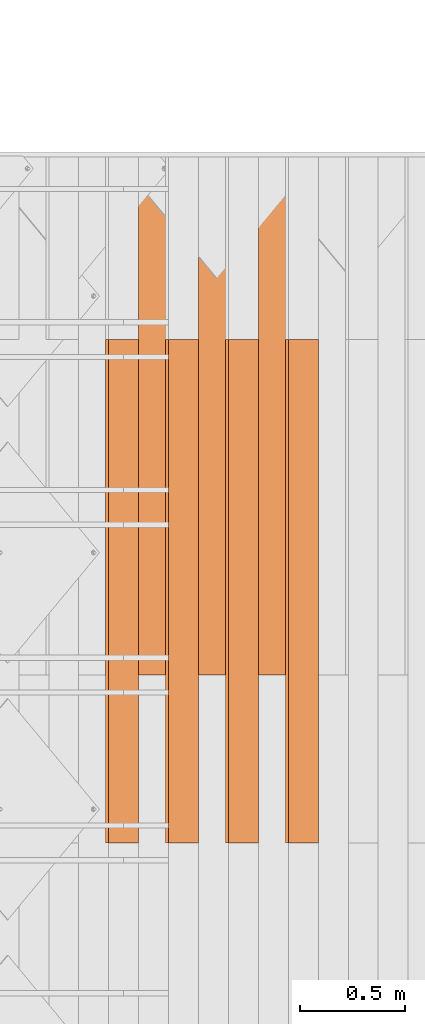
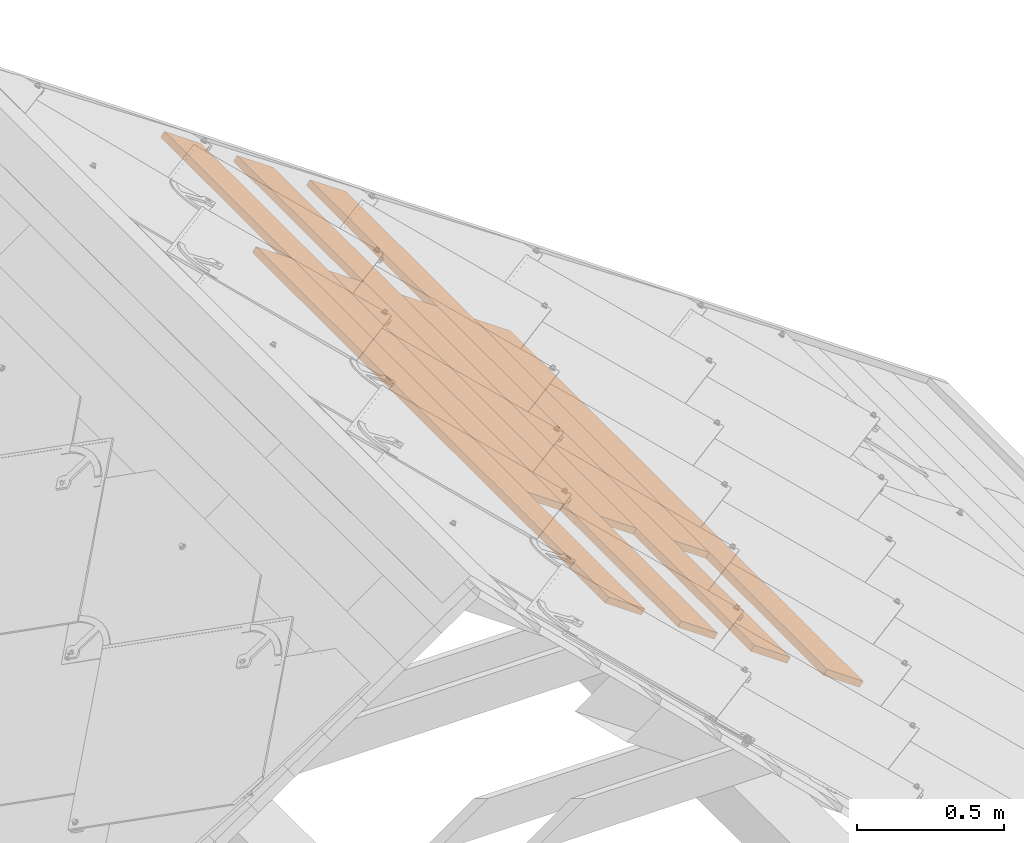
# One storey, part 73 of 151: 7 proxies, 1 element without a shape of its own.
"""IFC2X3 building model written with IfcOpenShell, lengths in millimetres."""

import ifcopenshell
import ifcopenshell.guid

model = None  # the IFC model being written
_history = None  # IfcOwnerHistory: only IFC2X3 demands one
_inside = {}  # id of a spatial element -> (the spatial element, [elements in it])
_under = {}  # id of a project, library or spatial element -> (it, [spatial elements below it])
_declared = {}  # id of a project -> (the project, [libraries it declares])
_typed = {}  # id of a type object -> (the type object, [elements of that type])
_made_of = {}  # id of a material, layer set ... -> (it, [elements and type objects made of it])


def new_model(schema):
    """Start an empty IFC model of exactly this schema.

    Asked for "IFC4X3", IfcOpenShell would pick the latest addendum, in which some entities
    have other attributes; the version numbers below select the first issue.
    IFC2X3 requires an IfcOwnerHistory on every rooted entity: one is made here for all.
    """
    global model, _history
    if schema == "IFC4X3":
        model = ifcopenshell.file(schema_version=(4, 3, 0, 0))
    else:
        model = ifcopenshell.file(schema=schema)
    _inside.clear()
    _under.clear()
    _declared.clear()
    _typed.clear()
    _made_of.clear()
    _history = None
    if model.schema == "IFC2X3":
        org = make("IfcOrganization", Name="unknown")
        user = make(
            "IfcPersonAndOrganization",
            ThePerson=make("IfcPerson", FamilyName="unknown"),
            TheOrganization=org,
        )
        app = make(
            "IfcApplication",
            ApplicationDeveloper=org,
            Version="unknown",
            ApplicationFullName="unknown",
            ApplicationIdentifier="unknown",
        )
        _history = make(
            "IfcOwnerHistory",
            OwningUser=user,
            OwningApplication=app,
            ChangeAction="ADDED",
            CreationDate=0,
        )
    return model


def make(cls, **values):
    """One entity of the class cls with the attributes given. An attribute that is None is left unset."""
    return model.create_entity(
        cls, **{name: value for name, value in values.items() if value is not None}
    )


def entity(cls, *values):
    """Any entity or typed value of the class cls, its attributes in the order of the schema. None: left unset."""
    e = model.create_entity(cls)
    for i, value in enumerate(values):
        if value is not None:
            e[i] = value
    return e


def rooted(cls, **values):
    """An entity with a GlobalId (a new one), such as an element, a storey or a relation."""
    return make(cls, GlobalId=ifcopenshell.guid.new(), OwnerHistory=_history, **values)


def si_unit(unit_type, name, prefix=None):
    """IfcSIUnit, for example si_unit("LENGTHUNIT", "METRE", prefix="MILLI")."""
    return make("IfcSIUnit", UnitType=unit_type, Prefix=prefix, Name=name)


def converted_unit(unit_type, name, factor, base, dimensions=None, offset=None):
    """IfcConversionBasedUnit, such as the inch: factor (a typed value) times the base unit."""
    return make(
        "IfcConversionBasedUnit"
        if offset is None
        else "IfcConversionBasedUnitWithOffset",
        ConversionOffset=offset,
        Dimensions=None
        if dimensions is None
        else entity("IfcDimensionalExponents", *dimensions),
        UnitType=unit_type,
        Name=name,
        ConversionFactor=make(
            "IfcMeasureWithUnit", ValueComponent=factor, UnitComponent=base
        ),
    )


def derived_unit(unit_type, elements):
    """IfcDerivedUnit: a product of units, each with its exponent."""
    return make(
        "IfcDerivedUnit",
        Elements=[
            make("IfcDerivedUnitElement", Unit=unit, Exponent=power)
            for unit, power in elements
        ],
        UnitType=unit_type,
    )


def assignment(units):
    """IfcUnitAssignment: the units of a project."""
    return None if units is None else make("IfcUnitAssignment", Units=units)


def point(xyz):
    """IfcCartesianPoint."""
    return None if xyz is None else make("IfcCartesianPoint", Coordinates=xyz)


def direction(xyz):
    """IfcDirection."""
    return None if xyz is None else make("IfcDirection", DirectionRatios=xyz)


def frame(location, z_axis=None, x_axis=None):
    """IfcAxis2Placement3D, a coordinate frame: its origin and axes. An axis left out is left unset."""
    return make(
        "IfcAxis2Placement3D",
        Location=point(location),
        Axis=direction(z_axis),
        RefDirection=direction(x_axis),
    )


def frame_2d(location, x_axis=None):
    """IfcAxis2Placement2D, a coordinate frame in the plane: its origin and x axis."""
    return make(
        "IfcAxis2Placement2D", Location=point(location), RefDirection=direction(x_axis)
    )


def origin():
    """The frame at (0, 0, 0) with its axes left unset."""
    return frame((0.0, 0.0, 0.0))


def place(relative_to, where):
    """IfcLocalPlacement: puts the frame where relative to a parent placement (None: the world)."""
    return make(
        "IfcLocalPlacement", PlacementRelTo=relative_to, RelativePlacement=where
    )


def context(
    kind, dimensions, precision=None, world=None, true_north=None, identifier=None
):
    """IfcGeometricRepresentationContext, for example the 3D "Model" context."""
    return make(
        "IfcGeometricRepresentationContext",
        ContextIdentifier=identifier,
        ContextType=kind,
        CoordinateSpaceDimension=dimensions,
        Precision=precision,
        WorldCoordinateSystem=world,
        TrueNorth=true_north,
    )


def subcontext(parent, identifier, kind, view, scale=None):
    """IfcGeometricRepresentationSubContext, for example "Body" below "Model"."""
    return make(
        "IfcGeometricRepresentationSubContext",
        ContextIdentifier=identifier,
        ContextType=kind,
        ParentContext=parent,
        TargetScale=scale,
        TargetView=view,
    )


def project(units=None, contexts=None):
    """IfcProject with its units and contexts."""
    return rooted(
        "IfcProject",
        Name="project",
        RepresentationContexts=contexts,
        UnitsInContext=assignment(units),
    )


def spatial(cls, under=None, at=None, **own):
    """A site, building, storey or space (cls), placed at a placement, below another one or the project."""
    s = rooted(cls, ObjectPlacement=at, **own)
    if under is not None:
        _under.setdefault(under.id(), (under, []))[1].append(s)
    return s


def profile(cls, at=None, kind="AREA", **sizes):
    """A parametric profile (cls). Its sizes go by their IFC names, for example OverallWidth=200.0."""
    return make(cls, ProfileType=kind, Position=at, **sizes)


def rectangle(**sizes):
    """IfcRectangleProfileDef."""
    return profile("IfcRectangleProfileDef", **sizes)


def extrude(swept, where, along, depth):
    """IfcExtrudedAreaSolid: the profile swept, set in the frame where, extruded along a direction by depth."""
    return make(
        "IfcExtrudedAreaSolid",
        SweptArea=swept,
        Position=where,
        ExtrudedDirection=direction(along),
        Depth=depth,
    )


def shape(context_of_items, identifier, shape_type, items):
    """IfcShapeRepresentation: the items that make up one representation, for example the "Body"."""
    return make(
        "IfcShapeRepresentation",
        ContextOfItems=context_of_items,
        RepresentationIdentifier=identifier,
        RepresentationType=shape_type,
        Items=items,
    )


def source(mapping_origin, context_of_items, identifier, shape_type, items):
    """IfcRepresentationMap: a shape defined once, which mapped items show again and again."""
    return make(
        "IfcRepresentationMap",
        MappingOrigin=mapping_origin,
        MappedRepresentation=shape(context_of_items, identifier, shape_type, items),
    )


def transform(
    local_origin,
    x_axis=None,
    y_axis=None,
    z_axis=None,
    scale=None,
    scale2=None,
    scale3=None,
    uniform=True,
):
    """IfcCartesianTransformationOperator3D, or its non-uniform kind. x_axis, y_axis, z_axis: its Axis1, 2, 3."""
    if uniform:
        return make(
            "IfcCartesianTransformationOperator3D",
            Axis1=direction(x_axis),
            Axis2=direction(y_axis),
            LocalOrigin=point(local_origin),
            Scale=scale,
            Axis3=direction(z_axis),
        )
    return make(
        "IfcCartesianTransformationOperator3DnonUniform",
        Axis1=direction(x_axis),
        Axis2=direction(y_axis),
        LocalOrigin=point(local_origin),
        Scale=scale,
        Axis3=direction(z_axis),
        Scale2=scale2,
        Scale3=scale3,
    )


def mapped(mapping_source, mapping_target):
    """IfcMappedItem: shows the shape of a source again, moved by a transform."""
    return make(
        "IfcMappedItem", MappingSource=mapping_source, MappingTarget=mapping_target
    )


def material(Name=None, Category=None):
    """IfcMaterial."""
    return make("IfcMaterial", Name=Name, Category=Category)


def made_of(thing, what):
    """Note that an element or type object is made of a material, layer set ...; save() writes the relation."""
    if what is not None:
        _made_of.setdefault(what.id(), (what, []))[1].append(thing)
    return thing


def type_object(cls, material=None, **own):
    """A type object (cls), such as IfcWallType, which elements share."""
    return made_of(rooted(cls, **own), material)


def type_shapes(of_type, sources):
    """Give a type object the sources (RepresentationMaps) that its elements show as mapped items."""
    of_type.RepresentationMaps = sources


def element(
    cls,
    number,
    at=None,
    inside=None,
    cuts=None,
    type_object=None,
    material=None,
    context=None,
    identifier="Body",
    shape_type=None,
    held_by="IfcProductDefinitionShape",
    body=None,
    shapes=None,
    **own,
):
    """One element of the class cls, such as IfcWall. Its Tag is "e" and its number.

    at: its placement. inside: the storey or other place that contains it. cuts: it is an
    opening in that element (IfcRelVoidsElement). A single representation is given by context,
    identifier, shape_type and body (its items); several are given by shapes. held_by: the class
    of the entity that holds the representations. save() writes the other relations.
    """
    e = rooted(cls, Tag="e%d" % number, ObjectPlacement=at, **own)
    if body is not None:
        shapes = [shape(context, identifier, shape_type, body)]
    if shapes is not None:
        e.Representation = make(held_by, Representations=shapes)
    if inside is not None:
        _inside.setdefault(inside.id(), (inside, []))[1].append(e)
    if cuts is not None:
        rooted(
            "IfcRelVoidsElement", RelatingBuildingElement=cuts, RelatedOpeningElement=e
        )
    if type_object is not None:
        _typed.setdefault(type_object.id(), (type_object, []))[1].append(e)
    return made_of(e, material)


def aggregate(whole, parts):
    """IfcRelAggregates: a whole, such as a stair, and the parts it consists of."""
    return rooted("IfcRelAggregates", RelatingObject=whole, RelatedObjects=parts)


def save(model, path):
    """Write the relations noted so far, then the file.

    IfcRelAggregates (storeys below a building ...), IfcRelContainedInSpatialStructure (elements
    in a storey), IfcRelDefinesByType, IfcRelAssociatesMaterial and IfcRelDeclares: one each for
    every whole, place, type object, material and project.
    """
    for whole, parts in _under.values():
        aggregate(whole, parts)
    for where, things in _inside.values():
        rooted(
            "IfcRelContainedInSpatialStructure",
            RelatedElements=things,
            RelatingStructure=where,
        )
    for kind, things in _typed.values():
        rooted("IfcRelDefinesByType", RelatedObjects=things, RelatingType=kind)
    for what, things in _made_of.values():
        rooted("IfcRelAssociatesMaterial", RelatedObjects=things, RelatingMaterial=what)
    for by, libraries in _declared.values():
        rooted("IfcRelDeclares", RelatingContext=by, RelatedDefinitions=libraries)
    model.write(path)


model = new_model("IFC2X3")

# Units and contexts
model_context = context("Model", 3, precision=0.01, world=origin(), true_north=direction((6.12303176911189e-17, 1.0)))
body_context = subcontext(model_context, "Body", "Model", "MODEL_VIEW")
ifc_project = project(units=[si_unit("LENGTHUNIT", "METRE", prefix="MILLI"), si_unit("AREAUNIT", "SQUARE_METRE"), si_unit("VOLUMEUNIT", "CUBIC_METRE"), converted_unit("PLANEANGLEUNIT", "DEGREE", entity("IfcRatioMeasure", 0.0174532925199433), si_unit("PLANEANGLEUNIT", "RADIAN"), dimensions=[0, 0, 0, 0, 0, 0, 0]), si_unit("MASSUNIT", "GRAM", prefix="KILO"), derived_unit("MASSDENSITYUNIT", [(si_unit("MASSUNIT", "GRAM", prefix="KILO"), 1), (si_unit("LENGTHUNIT", "METRE"), -3)]), si_unit("TIMEUNIT", "SECOND"), si_unit("FREQUENCYUNIT", "HERTZ"), si_unit("THERMODYNAMICTEMPERATUREUNIT", "DEGREE_CELSIUS"), derived_unit("THERMALTRANSMITTANCEUNIT", [(si_unit("MASSUNIT", "GRAM", prefix="KILO"), 1), (si_unit("THERMODYNAMICTEMPERATUREUNIT", "KELVIN"), -1), (si_unit("TIMEUNIT", "SECOND"), -3)]), derived_unit("VOLUMETRICFLOWRATEUNIT", [(si_unit("LENGTHUNIT", "METRE"), 3), (si_unit("TIMEUNIT", "SECOND"), -1)]), si_unit("ELECTRICCURRENTUNIT", "AMPERE"), si_unit("ELECTRICVOLTAGEUNIT", "VOLT"), si_unit("POWERUNIT", "WATT"), si_unit("FORCEUNIT", "NEWTON", prefix="KILO"), si_unit("ILLUMINANCEUNIT", "LUX"), si_unit("LUMINOUSFLUXUNIT", "LUMEN"), si_unit("LUMINOUSINTENSITYUNIT", "CANDELA"), derived_unit("USERDEFINED", [(si_unit("MASSUNIT", "GRAM", prefix="KILO"), -1), (si_unit("LENGTHUNIT", "METRE"), -2), (si_unit("TIMEUNIT", "SECOND"), 3), (si_unit("LUMINOUSFLUXUNIT", "LUMEN"), 1)]), derived_unit("LINEARVELOCITYUNIT", [(si_unit("LENGTHUNIT", "METRE"), 1), (si_unit("TIMEUNIT", "SECOND"), -1)]), si_unit("PRESSUREUNIT", "PASCAL"), derived_unit("USERDEFINED", [(si_unit("LENGTHUNIT", "METRE"), -2), (si_unit("MASSUNIT", "GRAM", prefix="KILO"), 1), (si_unit("TIMEUNIT", "SECOND"), -2)])], contexts=[model_context])

# Site, building, storey
site_placement = place(None, origin())
site = spatial("IfcSite", under=ifc_project, at=site_placement, Name="Default", CompositionType="ELEMENT")
building_placement = place(site_placement, origin())
building = spatial("IfcBuilding", under=site, at=building_placement, CompositionType="ELEMENT")
storey_placement = place(building_placement, origin())
storey = spatial("IfcBuildingStorey", under=building, at=storey_placement, Name="Level 1", CompositionType="ELEMENT", Elevation=0.0)

# Assembly, proxies
assembly_placement = place(storey_placement, origin())
assembly = element("IfcElementAssembly", 1, at=assembly_placement, inside=storey, Name="Structural Framing Assembly:Roof Construction Assembly", ObjectType="Structural Framing Assembly:Roof Construction Assembly", AssemblyPlace="NOTDEFINED", PredefinedType="USERDEFINED")
ifc_material = material(Name="Wood - Generic - Wood For Showcase")
building_element_proxy_type_1 = type_object("IfcBuildingElementProxyType", Name="Structural Framing 15", PredefinedType="NOTDEFINED", material=ifc_material)
shared_shape_1 = source(origin(), body_context, "Body", "SweptSolid", [
    extrude(rectangle(XDim=24.9999999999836, YDim=174.344679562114, at=frame_2d((2.97539770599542e-13, -4.2632564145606e-14), x_axis=(1.0, 0.0))), frame((1285.35601305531, 1525.55080214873, 2760.23940055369), z_axis=(0.0, 1.0, 0.0), x_axis=(0.573576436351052, 0.0, 0.819152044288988)), (0.0, 0.0, 1.0), 2399.99999999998),
])
type_shapes(building_element_proxy_type_1, [shared_shape_1])
proxy_1_placement = place(assembly_placement, frame((771.561874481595, -870.0, -500.0)))
proxy_1 = element("IfcBuildingElementProxy", 2, at=proxy_1_placement, type_object=building_element_proxy_type_1, material=ifc_material, Name="Structural Framing 180:Structural Framing 15", ObjectType="Structural Framing 180:Structural Framing 15", context=body_context, shape_type="MappedRepresentation", body=[
    mapped(shared_shape_1, transform((0.0, 0.0, 0.0), scale=1.0)),
])
building_element_proxy_type_2 = type_object("IfcBuildingElementProxyType", Name="Structural Framing 15", PredefinedType="NOTDEFINED", material=ifc_material)
shared_shape_2 = source(origin(), body_context, "Body", "SweptSolid", [
    extrude(rectangle(XDim=24.9999999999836, YDim=174.344679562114, at=frame_2d((3.73923114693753e-13, 6.3948846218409e-14), x_axis=(1.0, 0.0))), frame((1285.35601305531, 1455.55080214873, 2760.23940055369), z_axis=(0.0, 1.0, 0.0), x_axis=(0.573576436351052, 0.0, 0.819152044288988)), (0.0, 0.0, 1.0), 2469.99999999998),
])
type_shapes(building_element_proxy_type_2, [shared_shape_2])
proxy_2_placement = place(assembly_placement, frame((914.376675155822, 0.0, -600.0)))
proxy_2 = element("IfcBuildingElementProxy", 3, at=proxy_2_placement, type_object=building_element_proxy_type_2, material=ifc_material, Name="Structural Framing 185:Structural Framing 15", ObjectType="Structural Framing 185:Structural Framing 15", context=body_context, shape_type="MappedRepresentation", body=[
    mapped(shared_shape_2, transform((0.0, 0.0, 0.0), scale=1.0)),
])
building_element_proxy_type_3 = type_object("IfcBuildingElementProxyType", Name="Structural Framing 15", PredefinedType="NOTDEFINED", material=ifc_material)
shared_shape_3 = source(origin(), body_context, "Body", "SweptSolid", [
    extrude(rectangle(XDim=24.9999999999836, YDim=174.344679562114, at=frame_2d((2.97539770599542e-13, -4.2632564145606e-14), x_axis=(1.0, 0.0))), frame((1285.35601305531, 1525.55080214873, 2760.23940055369), z_axis=(0.0, 1.0, 0.0), x_axis=(0.573576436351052, 0.0, 0.819152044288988)), (0.0, 0.0, 1.0), 2399.99999999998),
])
type_shapes(building_element_proxy_type_3, [shared_shape_3])
proxy_3_placement = place(assembly_placement, frame((1057.19147583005, -870.0, -700.0)))
proxy_3 = element("IfcBuildingElementProxy", 4, at=proxy_3_placement, type_object=building_element_proxy_type_3, material=ifc_material, Name="Structural Framing 190:Structural Framing 15", ObjectType="Structural Framing 190:Structural Framing 15", context=body_context, shape_type="MappedRepresentation", body=[
    mapped(shared_shape_3, transform((0.0, 0.0, 0.0), scale=1.0)),
])
building_element_proxy_type_4 = type_object("IfcBuildingElementProxyType", Name="Structural Framing 15", PredefinedType="NOTDEFINED", material=ifc_material)
shared_shape_4 = source(origin(), body_context, "Body", "SweptSolid", [
    extrude(rectangle(XDim=24.9999999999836, YDim=174.344679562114, at=frame_2d((3.73923114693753e-13, 6.3948846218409e-14), x_axis=(1.0, 0.0))), frame((1285.35601305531, 1455.55080214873, 2760.23940055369), z_axis=(0.0, 1.0, 0.0), x_axis=(0.573576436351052, 0.0, 0.819152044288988)), (0.0, 0.0, 1.0), 2469.99999999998),
])
type_shapes(building_element_proxy_type_4, [shared_shape_4])
proxy_4_placement = place(assembly_placement, frame((1200.00627650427, 0.0, -800.0)))
proxy_4 = element("IfcBuildingElementProxy", 5, at=proxy_4_placement, type_object=building_element_proxy_type_4, material=ifc_material, Name="Structural Framing 195:Structural Framing 15", ObjectType="Structural Framing 195:Structural Framing 15", context=body_context, shape_type="MappedRepresentation", body=[
    mapped(shared_shape_4, transform((0.0, 0.0, 0.0), scale=1.0)),
])
building_element_proxy_type_5 = type_object("IfcBuildingElementProxyType", Name="Structural Framing 15", PredefinedType="NOTDEFINED", material=ifc_material)
shared_shape_5 = source(origin(), body_context, "Body", "SweptSolid", [
    extrude(rectangle(XDim=24.9999999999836, YDim=174.344679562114, at=frame_2d((2.97539770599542e-13, -4.2632564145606e-14), x_axis=(1.0, 0.0))), frame((1285.35601305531, 1525.55080214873, 2760.23940055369), z_axis=(0.0, 1.0, 0.0), x_axis=(0.573576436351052, 0.0, 0.819152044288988)), (0.0, 0.0, 1.0), 2399.99999999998),
])
type_shapes(building_element_proxy_type_5, [shared_shape_5])
proxy_5_placement = place(assembly_placement, frame((1342.8210771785, -870.0, -900.0)))
proxy_5 = element("IfcBuildingElementProxy", 6, at=proxy_5_placement, type_object=building_element_proxy_type_5, material=ifc_material, Name="Structural Framing 200:Structural Framing 15", ObjectType="Structural Framing 200:Structural Framing 15", context=body_context, shape_type="MappedRepresentation", body=[
    mapped(shared_shape_5, transform((0.0, 0.0, 0.0), scale=1.0)),
])
building_element_proxy_type_6 = type_object("IfcBuildingElementProxyType", Name="Structural Framing 15", PredefinedType="NOTDEFINED", material=ifc_material)
shared_shape_6 = source(origin(), body_context, "Body", "SweptSolid", [
    extrude(rectangle(XDim=24.9999999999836, YDim=174.344679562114, at=frame_2d((3.73923114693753e-13, 6.3948846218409e-14), x_axis=(1.0, 0.0))), frame((1285.35601305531, 1455.55080214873, 2760.23940055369), z_axis=(0.0, 1.0, 0.0), x_axis=(0.573576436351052, 0.0, 0.819152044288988)), (0.0, 0.0, 1.0), 2469.99999999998),
])
type_shapes(building_element_proxy_type_6, [shared_shape_6])
proxy_6_placement = place(assembly_placement, frame((1485.63587785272, 0.0, -1000.0)))
proxy_6 = element("IfcBuildingElementProxy", 7, at=proxy_6_placement, type_object=building_element_proxy_type_6, material=ifc_material, Name="Structural Framing 205:Structural Framing 15", ObjectType="Structural Framing 205:Structural Framing 15", context=body_context, shape_type="MappedRepresentation", body=[
    mapped(shared_shape_6, transform((0.0, 0.0, 0.0), scale=1.0)),
])
building_element_proxy_type_7 = type_object("IfcBuildingElementProxyType", Name="Structural Framing 15", PredefinedType="NOTDEFINED", material=ifc_material)
shared_shape_7 = source(origin(), body_context, "Body", "SweptSolid", [
    extrude(rectangle(XDim=24.9999999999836, YDim=174.344679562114, at=frame_2d((2.97539770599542e-13, -4.2632564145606e-14), x_axis=(1.0, 0.0))), frame((1285.35601305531, 1525.55080214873, 2760.23940055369), z_axis=(0.0, 1.0, 0.0), x_axis=(0.573576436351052, 0.0, 0.819152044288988)), (0.0, 0.0, 1.0), 2399.99999999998),
])
type_shapes(building_element_proxy_type_7, [shared_shape_7])
proxy_7_placement = place(assembly_placement, frame((1628.45067852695, -870.0, -1100.0)))
proxy_7 = element("IfcBuildingElementProxy", 8, at=proxy_7_placement, type_object=building_element_proxy_type_7, material=ifc_material, Name="Structural Framing 210:Structural Framing 15", ObjectType="Structural Framing 210:Structural Framing 15", context=body_context, shape_type="MappedRepresentation", body=[
    mapped(shared_shape_7, transform((0.0, 0.0, 0.0), scale=1.0)),
])
aggregate(assembly, [proxy_1, proxy_2, proxy_3, proxy_4, proxy_5, proxy_6, proxy_7])

save(model, "model.ifc")
